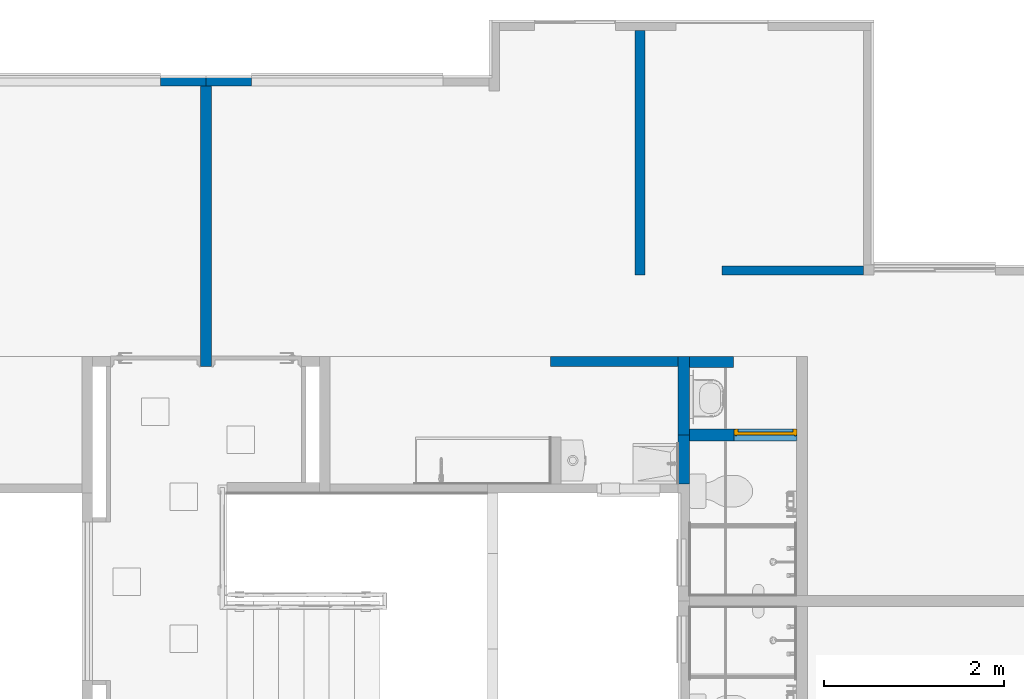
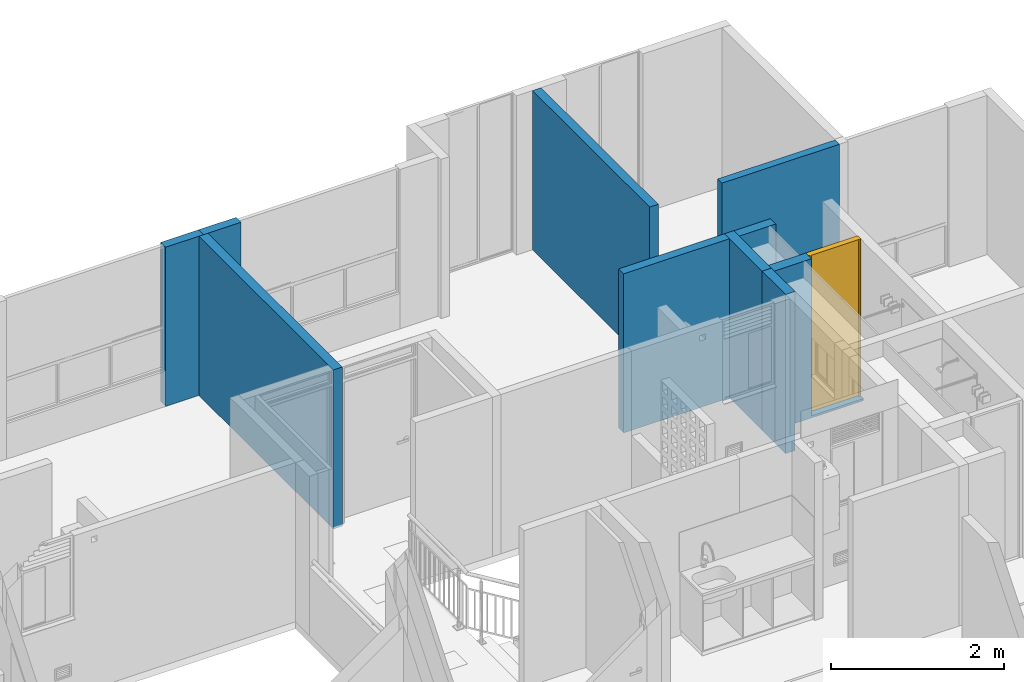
# One storey, part 22 of 47: 10 walls, 1 door, 1 opening.
"""IFC4 building model written with IfcOpenShell, lengths in metres."""

from ifc_helpers import new_model, entity, si_unit, converted_unit, derived_unit, direction, frame, origin, place, context, subcontext, project, spatial, indexed_curve, outline, extrude, polygons, source, transform, mapped, material, constituent, constituent_set, type_object, type_shapes, element, fill, save


model = new_model("IFC4")

# Units and contexts
model_context = context("Model", 3, precision=1e-05, world=origin(), true_north=direction((6.123031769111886e-17, 1.0)))
body_context = subcontext(model_context, "Body", "Model", "MODEL_VIEW")
ifc_project = project(units=[si_unit("LENGTHUNIT", "METRE"), si_unit("AREAUNIT", "SQUARE_METRE"), si_unit("VOLUMEUNIT", "CUBIC_METRE"), converted_unit("PLANEANGLEUNIT", "DEGREE", entity("IfcRatioMeasure", 0.017453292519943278), si_unit("PLANEANGLEUNIT", "RADIAN"), dimensions=[0, 0, 0, 0, 0, 0, 0]), si_unit("MASSUNIT", "GRAM", prefix="KILO"), derived_unit("MASSDENSITYUNIT", [(si_unit("MASSUNIT", "GRAM", prefix="KILO"), 1), (si_unit("LENGTHUNIT", "METRE"), -3)]), derived_unit("IONCONCENTRATIONUNIT", [(si_unit("MASSUNIT", "GRAM", prefix="KILO"), 1), (si_unit("LENGTHUNIT", "METRE"), -3)]), derived_unit("MOMENTOFINERTIAUNIT", [(si_unit("LENGTHUNIT", "METRE"), 4)]), si_unit("TIMEUNIT", "SECOND"), si_unit("FREQUENCYUNIT", "HERTZ"), si_unit("THERMODYNAMICTEMPERATUREUNIT", "DEGREE_CELSIUS"), derived_unit("THERMALTRANSMITTANCEUNIT", [(si_unit("MASSUNIT", "GRAM", prefix="KILO"), 1), (si_unit("THERMODYNAMICTEMPERATUREUNIT", "KELVIN"), -1), (si_unit("TIMEUNIT", "SECOND"), -3)]), derived_unit("THERMALCONDUCTANCEUNIT", [(si_unit("MASSUNIT", "GRAM", prefix="KILO"), 1), (si_unit("THERMODYNAMICTEMPERATUREUNIT", "KELVIN"), -1), (si_unit("TIMEUNIT", "SECOND"), -3), (si_unit("LENGTHUNIT", "METRE"), 1)]), derived_unit("VOLUMETRICFLOWRATEUNIT", [(si_unit("LENGTHUNIT", "METRE"), 3), (si_unit("TIMEUNIT", "SECOND"), -1)]), derived_unit("MASSFLOWRATEUNIT", [(si_unit("MASSUNIT", "GRAM", prefix="KILO"), 1), (si_unit("TIMEUNIT", "SECOND"), -1)]), derived_unit("ROTATIONALFREQUENCYUNIT", [(si_unit("TIMEUNIT", "SECOND"), -1)]), si_unit("ELECTRICCURRENTUNIT", "AMPERE"), si_unit("ELECTRICVOLTAGEUNIT", "VOLT"), si_unit("POWERUNIT", "WATT"), si_unit("FORCEUNIT", "NEWTON", prefix="KILO"), si_unit("ILLUMINANCEUNIT", "LUX"), si_unit("LUMINOUSFLUXUNIT", "LUMEN"), si_unit("LUMINOUSINTENSITYUNIT", "CANDELA"), derived_unit("USERDEFINED", [(si_unit("MASSUNIT", "GRAM", prefix="KILO"), -1), (si_unit("LENGTHUNIT", "METRE"), -2), (si_unit("TIMEUNIT", "SECOND"), 3), (si_unit("LUMINOUSFLUXUNIT", "LUMEN"), 1)]), derived_unit("USERDEFINED", [(si_unit("MASSUNIT", "GRAM", prefix="KILO"), 1), (si_unit("TIMEUNIT", "SECOND"), -3), (si_unit("LENGTHUNIT", "METRE"), 3), (si_unit("ELECTRICCURRENTUNIT", "AMPERE"), -2)]), derived_unit("SOUNDPOWERUNIT", [(si_unit("MASSUNIT", "GRAM", prefix="KILO"), 1), (si_unit("TIMEUNIT", "SECOND"), -3), (si_unit("LENGTHUNIT", "METRE"), 2)]), derived_unit("SOUNDPRESSUREUNIT", [(si_unit("MASSUNIT", "GRAM", prefix="KILO"), 1), (si_unit("LENGTHUNIT", "METRE"), -1), (si_unit("TIMEUNIT", "SECOND"), -2)]), derived_unit("LINEARVELOCITYUNIT", [(si_unit("LENGTHUNIT", "METRE"), 1), (si_unit("TIMEUNIT", "SECOND"), -1)]), si_unit("PRESSUREUNIT", "PASCAL"), derived_unit("USERDEFINED", [(si_unit("MASSUNIT", "GRAM", prefix="KILO"), 1), (si_unit("LENGTHUNIT", "METRE"), -2), (si_unit("TIMEUNIT", "SECOND"), -2)]), derived_unit("LINEARFORCEUNIT", [(si_unit("MASSUNIT", "GRAM", prefix="KILO"), 1), (si_unit("TIMEUNIT", "SECOND"), -2)]), derived_unit("PLANARFORCEUNIT", [(si_unit("MASSUNIT", "GRAM", prefix="KILO"), 1), (si_unit("LENGTHUNIT", "METRE"), -1), (si_unit("TIMEUNIT", "SECOND"), -2)]), derived_unit("SPECIFICHEATCAPACITYUNIT", [(si_unit("THERMODYNAMICTEMPERATUREUNIT", "KELVIN"), -1), (si_unit("LENGTHUNIT", "METRE"), 2), (si_unit("TIMEUNIT", "SECOND"), -2)]), derived_unit("HEATINGVALUEUNIT", [(si_unit("LENGTHUNIT", "METRE"), 2), (si_unit("TIMEUNIT", "SECOND"), -2)]), derived_unit("VAPORPERMEABILITYUNIT", [(si_unit("LENGTHUNIT", "METRE"), -1), (si_unit("TIMEUNIT", "SECOND"), 1)]), derived_unit("DYNAMICVISCOSITYUNIT", [(si_unit("MASSUNIT", "GRAM", prefix="KILO"), 1), (si_unit("TIMEUNIT", "SECOND"), -1), (si_unit("LENGTHUNIT", "METRE"), -1)]), derived_unit("THERMALEXPANSIONCOEFFICIENTUNIT", [(si_unit("THERMODYNAMICTEMPERATUREUNIT", "KELVIN"), -1)]), derived_unit("MODULUSOFELASTICITYUNIT", [(si_unit("MASSUNIT", "GRAM", prefix="KILO"), 1), (si_unit("LENGTHUNIT", "METRE"), -1), (si_unit("TIMEUNIT", "SECOND"), -2)]), derived_unit("ISOTHERMALMOISTURECAPACITYUNIT", [(si_unit("LENGTHUNIT", "METRE"), 3), (si_unit("MASSUNIT", "GRAM", prefix="KILO"), -1)]), derived_unit("MOISTUREDIFFUSIVITYUNIT", [(si_unit("TIMEUNIT", "SECOND"), -1), (si_unit("LENGTHUNIT", "METRE"), 2)])], contexts=[model_context])

# Site, building, storey
site_placement = place(None, origin())
site = spatial("IfcSite", under=ifc_project, at=site_placement, Name="Default", CompositionType="ELEMENT")
building_placement = place(site_placement, origin())
building = spatial("IfcBuilding", under=site, at=building_placement, CompositionType="ELEMENT")
storey_placement = place(building_placement, frame((0.0, 0.0, 11.750000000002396)))
storey = spatial("IfcBuildingStorey", under=building, at=storey_placement, Name="Nivel 6", CompositionType="ELEMENT", Elevation=11.750000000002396)

# Walls
ifc_material_1 = material(Name="Concreto (Aire)", Category="Materials")
wall_type_1 = type_object("IfcWallType", Name="Basic Wall:B2010 - 0.12m - Muro interior en concreto", PredefinedType="STANDARD")
wall_1_placement = place(storey_placement, frame((9.32250000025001, -3.8249999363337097, 0.0), z_axis=(0.0, 0.0, 1.0), x_axis=(0.0, 1.0, 0.0)))
element("IfcWall", 1, at=wall_1_placement, inside=storey, type_object=wall_type_1, material=ifc_material_1, Name="Basic Wall:B2010 - 0.12m - Muro interior en concreto", ObjectType="Basic Wall:B2010 - 0.12m - Muro interior en concreto", PredefinedType="NOTDEFINED", context=body_context, shape_type="SweptSolid", body=[
    extrude(outline(indexed_curve([(3.1149999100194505, 0.06000000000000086), (8.03641024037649e-16, 0.060000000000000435), (2.792261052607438e-16, -0.060000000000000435), (3.1149999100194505, -0.06000000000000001), (3.1149999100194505, 0.06000000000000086)], self_intersect=False)), origin(), (0.0, 0.0, 1.0), 2.250000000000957),
])
ifc_material_2 = material(Name="LADRILLO CLARO", Category="Materials")
wall_type_2 = type_object("IfcWallType", Name="Basic Wall:B2010 - 0.115m - ME mampostería no estructural - Ladrillo", PredefinedType="STANDARD")
wall_2_placement = place(storey_placement, frame((8.817499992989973, -0.6525000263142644, 0.0)))
element("IfcWall", 2, at=wall_2_placement, inside=storey, type_object=wall_type_2, material=ifc_material_2, Name="Basic Wall:B2010 - 0.115m - ME mampostería no estructural - Ladrillo", ObjectType="Basic Wall:B2010 - 0.115m - ME mampostería no estructural - Ladrillo", PredefinedType="NOTDEFINED", context=body_context, shape_type="SweptSolid", body=[
    extrude(outline(indexed_curve([(0.505000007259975, 0.057500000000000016), (-1.5987656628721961e-15, 0.05749999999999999), (-5.6696859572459e-16, -0.05750000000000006), (0.505000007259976, -0.05750000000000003), (0.505000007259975, 0.057500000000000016)], self_intersect=False)), origin(), (0.0, 0.0, 1.0), 2.2500000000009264),
])
wall_3_placement = place(storey_placement, frame((9.827500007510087, -0.6525000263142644, 0.0), z_axis=(0.0, 0.0, 1.0), x_axis=(-1.0, 0.0, 0.0)))
element("IfcWall", 3, at=wall_3_placement, inside=storey, type_object=wall_type_2, material=ifc_material_2, Name="Basic Wall:B2010 - 0.115m - ME mampostería no estructural - Ladrillo", ObjectType="Basic Wall:B2010 - 0.115m - ME mampostería no estructural - Ladrillo", PredefinedType="NOTDEFINED", context=body_context, shape_type="SweptSolid", body=[
    extrude(outline(indexed_curve([(0.5050000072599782, 0.05750000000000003), (-5.6696859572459e-16, 0.05750000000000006), (5.669685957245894e-16, -0.05749999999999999), (0.5050000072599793, -0.057500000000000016), (0.5050000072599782, 0.05750000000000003)], self_intersect=False)), origin(), (0.0, 0.0, 1.0), 2.2500000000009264),
])
ifc_material_3 = material(Name="Ladrillo claro (Aire)", Category="Materials")
wall_type_3 = type_object("IfcWallType", Name="Basic Wall:B2010 - 0.115m - Muro interior en mampostería - Ladrillo", PredefinedType="STANDARD")
wall_4_placement = place(storey_placement, frame((14.135000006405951, -0.09500002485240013, 0.0), z_axis=(0.0, 0.0, 1.0), x_axis=(0.0, -1.0, 0.0)))
element("IfcWall", 4, at=wall_4_placement, inside=storey, type_object=wall_type_3, material=ifc_material_3, Name="Basic Wall:B2010 - 0.115m - Muro interior en mampostería - Ladrillo", ObjectType="Basic Wall:B2010 - 0.115m - Muro interior en mampostería - Ladrillo", PredefinedType="NOTDEFINED", context=body_context, shape_type="SweptSolid", body=[
    extrude(outline(indexed_curve([(2.7150000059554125, 0.05749999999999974), (-3.2594452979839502e-18, 0.057499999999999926), (3.2594452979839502e-18, -0.057499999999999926), (2.7150000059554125, -0.05750000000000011), (2.7150000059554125, 0.05749999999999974)], self_intersect=False)), origin(), (0.0, 0.0, 1.0), 2.2499999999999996),
])
wall_5_placement = place(storey_placement, frame((14.557500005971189, -3.7675000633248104, 0.0), z_axis=(0.0, 0.0, 1.0), x_axis=(-1.0, 0.0, 0.0)))
element("IfcWall", 5, at=wall_5_placement, inside=storey, type_object=wall_type_3, material=ifc_material_3, Name="Basic Wall:B2010 - 0.115m - Muro interior en mampostería - Ladrillo", ObjectType="Basic Wall:B2010 - 0.115m - Muro interior en mampostería - Ladrillo", PredefinedType="NOTDEFINED", context=body_context, shape_type="SweptSolid", body=[
    extrude(outline(indexed_curve([(1.414999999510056, 0.057499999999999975), (1.9595423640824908e-16, 0.057499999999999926), (-1.9595423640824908e-16, -0.057499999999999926), (1.4149999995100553, -0.05749999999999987), (1.414999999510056, 0.057499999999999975)], self_intersect=False)), origin(), (0.0, 0.0, 1.0), 2.2499999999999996),
])
wall_type_4 = type_object("IfcWallType", Name="Basic Wall:B2010 - 0.10m - Muro interior en concreto", PredefinedType="STANDARD")
wall_6_placement = place(storey_placement, frame((16.612500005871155, -2.7600000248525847, 0.0), z_axis=(0.0, 0.0, 1.0), x_axis=(-1.0, 0.0, 0.0)))
element("IfcWall", 6, at=wall_6_placement, inside=storey, type_object=wall_type_4, material=ifc_material_1, Name="Basic Wall:B2010 - 0.10m - Muro interior en concreto", ObjectType="Basic Wall:B2010 - 0.10m - Muro interior en concreto", PredefinedType="NOTDEFINED", context=body_context, shape_type="SweptSolid", body=[
    extrude(outline(indexed_curve([(1.569999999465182, 0.050000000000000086), (-1.0889063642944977e-15, 0.05), (-3.2425621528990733e-15, -0.05), (1.5699999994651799, -0.04999999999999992), (1.569999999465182, 0.050000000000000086)], self_intersect=False)), origin(), (0.0, 0.0, 1.0), 2.2499999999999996),
])
ifc_material_4 = material(Name="Pañete", Category="Materials")
ifc_constituent_1 = constituent(ifc_material_4, Name="Pañete", Category="Materials")
ifc_constituent_2 = constituent(ifc_material_3, Name="Ladrillo claro (Aire)", Category="Materials")
ifc_constituent_set_1 = constituent_set(constituents=[ifc_constituent_1, ifc_constituent_2], Name="Basic Wall:B2010 - 0.115m - Muro interior en mampostería - Ladrillo + Pañete")
wall_type_5 = type_object("IfcWallType", Name="Basic Wall:B2010 - 0.115m - Muro interior en mampostería - Ladrillo + Pañete", PredefinedType="STANDARD", material=ifc_constituent_set_1)
wall_7_placement = place(storey_placement, frame((15.172500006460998, -3.7725000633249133, 0.0), z_axis=(0.0, 0.0, 1.0), x_axis=(-1.0, 0.0, 0.0)))
element("IfcWall", 7, at=wall_7_placement, inside=storey, type_object=wall_type_5, material=ifc_constituent_set_1, Name="Basic Wall:B2010 - 0.115m - Muro interior en mampostería - Ladrillo + Pañete", ObjectType="Basic Wall:B2010 - 0.115m - Muro interior en mampostería - Ladrillo + Pañete", PredefinedType="NOTDEFINED", context=body_context, shape_type="SweptSolid", body=[
    extrude(outline(indexed_curve([(-0.004999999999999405, -0.24500000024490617), (0.0050000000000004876, -0.24500000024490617), (0.004999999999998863, 0.245000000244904), (-0.005000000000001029, 0.245000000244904), (-0.004999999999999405, -0.24500000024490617)], self_intersect=False)), frame((0.24500000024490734, 0.057499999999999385, 0.0), z_axis=(0.0, 0.0, 1.0), x_axis=(0.0, -1.0, 0.0)), (0.0, 0.0, 1.0), 2.2500000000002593),
    extrude(outline(indexed_curve([(-0.057499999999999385, -0.245000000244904), (0.05750000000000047, -0.245000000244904), (0.057499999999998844, 0.24500000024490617), (-0.05750000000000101, 0.24500000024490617), (-0.057499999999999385, -0.245000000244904)], self_intersect=False)), frame((0.24500000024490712, -0.004999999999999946, 0.0), z_axis=(0.0, 0.0, 1.0), x_axis=(0.0, 1.0, 0.0)), (0.0, 0.0, 1.0), 2.2500000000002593),
])

# Wall, opening, door
ifc_constituent_3 = constituent(ifc_material_4, Name="Pañete", Category="Materials")
ifc_constituent_4 = constituent(ifc_material_2, Name="LADRILLO CLARO", Category="Materials")
ifc_constituent_5 = constituent(ifc_material_4, Name="Pañete (2)", Category="Materials")
ifc_constituent_set_2 = constituent_set(constituents=[ifc_constituent_3, ifc_constituent_4, ifc_constituent_5], Name="Basic Wall:B2010 - 0.115m - MI  mampostería no estructural - Pañete + Ladrillo + Pañete")
wall_type_6 = type_object("IfcWallType", Name="Basic Wall:B2010 - 0.115m - MI  mampostería no estructural - Pañete + Ladrillo + Pañete", PredefinedType="STANDARD", material=ifc_constituent_set_2)
wall_8_placement = place(storey_placement, frame((14.682500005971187, -4.582500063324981, 0.0)))
wall_8 = element("IfcWall", 8, at=wall_8_placement, inside=storey, type_object=wall_type_6, material=ifc_constituent_set_2, Name="Basic Wall:B2010 - 0.115m - MI  mampostería no estructural - Pañete + Ladrillo + Pañete", ObjectType="Basic Wall:B2010 - 0.115m - MI  mampostería no estructural - Pañete + Ladrillo + Pañete", PredefinedType="NOTDEFINED", context=body_context, shape_type="SweptSolid", body=[
    extrude(outline(indexed_curve([(-1.1325000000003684, -0.5199994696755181), (1.117500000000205, -0.5199994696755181), (1.117500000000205, -0.12999946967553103), (1.117500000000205, -0.10999946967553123), (1.117500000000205, -0.0250005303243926), (-1.1025000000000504, -0.0250005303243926), (-1.1025000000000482, 0.6649994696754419), (-1.1325000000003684, 0.6649994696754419), (-1.1325000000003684, -0.5199994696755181)], self_intersect=False)), frame((0.5199994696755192, -0.06750000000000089, 1.1325000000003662), z_axis=(0.0, 1.0, 0.0), x_axis=(0.0, 0.0, 1.0)), (0.0, 0.0, 1.0), 0.010000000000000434),
    extrude(outline(indexed_curve([(-0.7600000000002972, -0.5599992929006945), (1.4900000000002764, -0.5599992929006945), (1.4900000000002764, -0.06500035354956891), (-0.7299999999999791, -0.06500035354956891), (-0.729999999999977, 0.6249996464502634), (-0.760000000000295, 0.6249996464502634), (-0.7600000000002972, -0.5599992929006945)], self_intersect=False)), frame((0.5599992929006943, 0.057499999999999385, 0.760000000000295), z_axis=(0.0, 1.0, 0.0), x_axis=(0.0, 0.0, 1.0)), (0.0, 0.0, 1.0), 0.009999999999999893),
    extrude(outline(indexed_curve([(-0.7600000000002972, -0.5633326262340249), (1.4900000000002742, -0.563332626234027), (1.4900000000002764, -0.06833368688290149), (-0.7299999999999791, -0.06833368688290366), (-0.729999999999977, 0.6316663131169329), (-0.760000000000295, 0.6316663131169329), (-0.7600000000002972, -0.5633326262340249)], self_intersect=False)), frame((0.563332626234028, -0.05750000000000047, 0.760000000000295), z_axis=(0.0, 1.0, 0.0), x_axis=(0.0, 0.0, 1.0)), (0.0, 0.0, 1.0), 0.11499999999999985),
])
opening_placement = place(wall_8_placement, frame((1.1949989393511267, 0.06749999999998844, 0.0299999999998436)))
opening = element("IfcOpeningElement", 9, at=opening_placement, cuts=wall_8, Name="C1030 - Puerta batiente - Madera+Aluminio:C1030 - 0.70 x 2.22 - Puerta batiente - Madera+ Metal:1", PredefinedType="OPENING", context=body_context, shape_type="SweptSolid", body=[
    extrude(outline(indexed_curve([(1.438182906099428e-16, 0.7000000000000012), (1.438182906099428e-16, 0.0), (2.219999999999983, 0.0), (2.2199999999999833, 0.7000000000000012), (1.438182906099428e-16, 0.7000000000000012)], self_intersect=False)), frame((0.0, 0.0, 0.0), z_axis=(0.0, -1.0, 0.0), x_axis=(0.0, 0.0, 1.0)), (0.0, 0.0, 1.0), 0.13499999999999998),
])
ifc_material_5 = material(Name="<Unnamed>")
door_type = type_object("IfcDoorType", Name="C1030 - Puerta batiente - Madera+Aluminio:C1030 - 0.70 x 2.22 - Puerta batiente - Madera+ Metal", OperationType="SINGLE_SWING_LEFT", PredefinedType="DOOR", material=ifc_material_5)
shared_shape = source(origin(), body_context, "Body", "Tessellation", [
    polygons([(0.6699999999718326, 0.06499999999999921, 0.009880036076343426), (0.6699999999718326, 0.0324999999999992, 0.009880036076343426), (0.030000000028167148, 0.0324999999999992, 0.009880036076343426), (0.030000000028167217, 0.06499999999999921, 0.009880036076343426), (0.6699999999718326, 0.06499999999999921, 2.2050000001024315), (0.6699999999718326, 0.0324999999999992, 2.2050000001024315), (0.030000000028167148, 0.0324999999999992, 2.2050000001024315), (0.030000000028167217, 0.06499999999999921, 2.2050000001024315)], [[[1, 2, 3, 4]], [[5, 6, 2, 1]], [[6, 7, 3, 2]], [[7, 8, 4, 3]], [[8, 5, 1, 4]], [[5, 8, 7, 6]]], closed=True),
    polygons([(0.6849999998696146, 0.0649999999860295, 0.0), (0.7, 0.0649999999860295, 0.0), (0.7, 0.0074999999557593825, 0.0), (0.6849999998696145, 0.007499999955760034, 0.0), (0.6849999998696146, -5.075939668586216e-17, 0.0), (0.6549999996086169, -1.6919798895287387e-17, 0.0), (0.6549999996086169, 0.04000000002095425, 0.0), (0.6699999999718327, 0.04000000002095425, 0.0), (0.6699999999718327, 0.07999999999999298, 0.0), (0.6849999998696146, 0.07999999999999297, 0.0), (0.7, 0.0074999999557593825, 2.2199999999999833), (0.6849999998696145, 0.007499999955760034, 2.2199999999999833), (0.6849999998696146, 0.0649999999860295, 2.2199999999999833), (0.7, 0.0649999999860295, 2.2199999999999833), (0.015000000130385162, 0.06499999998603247, 0.0), (0.015000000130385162, 0.07999999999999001, 0.0), (0.030000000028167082, 0.07999999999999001, 0.0), (0.030000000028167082, 0.04000000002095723, 0.0), (0.04500000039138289, 0.04000000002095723, 0.0), (0.04500000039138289, 0.0, 0.0), (0.01500000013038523, 0.0, 0.0), (0.015000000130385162, 0.007499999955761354, 0.0), (0.0, 0.007499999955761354, 0.0), (0.0, 0.06499999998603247, 0.0), (0.0, 0.06499999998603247, 2.2199999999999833), (0.015000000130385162, 0.06499999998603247, 2.2199999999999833), (0.015000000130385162, 0.007499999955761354, 2.2199999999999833), (0.0, 0.007499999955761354, 2.2199999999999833), (0.04500000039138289, 0.04000000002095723, 2.2050000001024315), (0.04500000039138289, 0.03250000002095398, 2.2050000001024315), (0.04500000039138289, 0.03250000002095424, 2.189999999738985), (0.04500000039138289, 0.0, 2.189999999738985), (0.6549999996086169, -1.6919798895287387e-17, 2.189999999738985), (0.6549999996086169, 0.032500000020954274, 2.189999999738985), (0.6549999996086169, 0.03250000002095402, 2.2050000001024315), (0.6549999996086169, 0.04000000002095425, 2.2050000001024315), (0.030000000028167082, 0.07999999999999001, 2.2199999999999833), (0.030000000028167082, 0.07249999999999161, 2.2199999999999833), (0.030000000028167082, 0.07249999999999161, 2.2050000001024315), (0.030000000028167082, 0.04000000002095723, 2.2050000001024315), (0.6699999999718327, 0.04000000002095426, 2.2050000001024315), (0.6699999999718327, 0.07249999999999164, 2.2050000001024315), (0.6699999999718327, 0.07249999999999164, 2.2199999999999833), (0.6699999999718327, 0.07999999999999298, 2.2199999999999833), (0.015000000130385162, 0.07999999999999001, 2.2199999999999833), (0.6849999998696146, -5.075939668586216e-17, 2.2199999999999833), (0.01500000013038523, 0.0, 2.2199999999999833), (0.6849999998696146, 0.07999999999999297, 2.2199999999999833)], [[[1, 2, 3, 4, 5, 6, 7, 8, 9, 10]], [[11, 12, 4, 3]], [[13, 14, 2, 1]], [[15, 16, 17, 18, 19, 20, 21, 22, 23, 24]], [[25, 26, 15, 24]], [[27, 28, 23, 22]], [[20, 19, 29, 30, 31, 32]], [[7, 6, 33, 34, 35, 36]], [[18, 17, 37, 38, 39, 40]], [[9, 8, 41, 42, 43, 44]], [[28, 25, 24, 23]], [[14, 11, 3, 2]], [[26, 45, 16, 15]], [[45, 37, 17, 16]], [[19, 18, 40, 29]], [[21, 20, 32, 33, 6, 5, 46, 47]], [[47, 27, 22, 21]], [[12, 46, 5, 4]], [[48, 13, 1, 10]], [[26, 25, 28, 27, 47, 46, 12, 11, 14, 13, 48, 44, 43, 38, 37, 45]], [[39, 42, 41, 36, 35, 30, 29, 40]], [[33, 32, 31, 34]], [[8, 7, 36, 41]], [[44, 48, 10, 9]], [[34, 31, 30, 35]], [[42, 39, 38, 43]]], closed=True),
])
type_shapes(door_type, [shared_shape])
door_placement = place(opening_placement, frame((0.0, 0.0, 0.0), z_axis=(0.0, 0.0, 1.0), x_axis=(-1.0, 0.0, 0.0)))
door = element("IfcDoor", 10, at=door_placement, inside=storey, type_object=door_type, material=ifc_material_5, Name="C1030 - Puerta batiente - Madera+Aluminio:C1030 - 0.70 x 2.22 - Puerta batiente - Madera+ Metal", ObjectType="C1030 - Puerta batiente - Madera+Aluminio:C1030 - 0.70 x 2.22 - Puerta batiente - Madera+ Metal", OperationType="NOTDEFINED", OverallHeight=2.2199999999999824, OverallWidth=0.7000000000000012, PredefinedType="DOOR", context=body_context, shape_type="MappedRepresentation", body=[
    mapped(shared_shape, transform((0.0, 0.0, 0.0), scale=1.0)),
])
fill(opening, door)

# Walls
ifc_material_6 = material(Name="Pañete, estuco y pintura", Category="Materials")
ifc_constituent_6 = constituent(ifc_material_6, Name="Pañete, estuco y pintura", Category="Materials")
ifc_constituent_7 = constituent(ifc_material_3, Name="Ladrillo claro (Aire)", Category="Materials")
ifc_constituent_set_3 = constituent_set(constituents=[ifc_constituent_6, ifc_constituent_7], Name="Basic Wall:B2010 - 0.115m - Muro interior en mampostería - Ladrillo + Pañete+ estuco+ pintura")
wall_type_7 = type_object("IfcWallType", Name="Basic Wall:B2010 - 0.115m - Muro interior en mampostería - Ladrillo + Pañete+ estuco+ pintura", PredefinedType="STANDARD", material=ifc_constituent_set_3)
wall_9_placement = place(storey_placement, frame((14.620000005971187, -3.7100000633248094, 0.0), z_axis=(0.0, 0.0, 1.0), x_axis=(0.0, -1.0, 0.0)))
element("IfcWall", 11, at=wall_9_placement, inside=storey, type_object=wall_type_7, material=ifc_constituent_set_3, Name="Basic Wall:B2010 - 0.115m - Muro interior en mampostería - Ladrillo + Pañete+ estuco+ pintura", ObjectType="Basic Wall:B2010 - 0.115m - Muro interior en mampostería - Ladrillo + Pañete+ estuco+ pintura", PredefinedType="NOTDEFINED", context=body_context, shape_type="SweptSolid", body=[
    extrude(outline(indexed_curve([(-0.35916666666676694, -0.0033333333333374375), (0.3208333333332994, -0.0033333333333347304), (0.44583333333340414, -0.003333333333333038), (0.4458333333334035, 0.0066666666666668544), (-0.42666666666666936, 0.006666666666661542), (-0.4266666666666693, -0.0033333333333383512), (-0.35916666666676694, -0.0033333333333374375)], self_intersect=False)), frame((0.4458333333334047, 0.05916666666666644, 0.0), z_axis=(0.0, 0.0, 1.0), x_axis=(-1.0, 0.0, 0.0)), (0.0, 0.0, 1.0), 2.2499999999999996),
    extrude(outline(indexed_curve([(-0.2570000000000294, -0.046000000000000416), (0.5005000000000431, -0.046000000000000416), (0.5005000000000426, 0.06899999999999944), (-0.3720000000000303, 0.06899999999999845), (-0.37200000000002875, -0.046000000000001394), (-0.2570000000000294, -0.046000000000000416)], self_intersect=False)), frame((0.37200000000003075, -0.016499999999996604, 0.0)), (0.0, 0.0, 1.0), 2.2499999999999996),
])
wall_10_placement = place(storey_placement, frame((14.620000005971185, -4.582500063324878, 0.0), z_axis=(0.0, 0.0, 1.0), x_axis=(0.0, -1.0, 0.0)))
element("IfcWall", 12, at=wall_10_placement, inside=storey, type_object=wall_type_7, material=ifc_constituent_set_3, Name="Basic Wall:B2010 - 0.115m - Muro interior en mampostería - Ladrillo + Pañete+ estuco+ pintura", ObjectType="Basic Wall:B2010 - 0.115m - Muro interior en mampostería - Ladrillo + Pañete+ estuco+ pintura", PredefinedType="NOTDEFINED", context=body_context, shape_type="SweptSolid", body=[
    extrude(outline(indexed_curve([(0.162805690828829, -0.004000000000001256), (0.23030569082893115, -0.004000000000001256), (0.23030569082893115, 0.005999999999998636), (-0.3117085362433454, 0.006000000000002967), (-0.3117085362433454, -0.003999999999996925), (0.162805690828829, -0.004000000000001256)], self_intersect=False)), frame((0.23030569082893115, 0.05850000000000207, 0.0), z_axis=(0.0, 0.0, 1.0), x_axis=(-1.0, 0.0, 0.0)), (0.0, 0.0, 1.0), 2.2499999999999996),
    extrude(outline(indexed_curve([(-0.12467143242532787, -0.0383333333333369), (-0.09067143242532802, -0.0383333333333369), (0.3248428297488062, -0.03833333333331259), (0.32484282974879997, 0.07666666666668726), (-0.21717139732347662, 0.07666666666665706), (-0.21717139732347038, -0.03833333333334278), (-0.12467143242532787, -0.0383333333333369)], self_intersect=False)), frame((0.2171713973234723, -0.024166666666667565, 0.0)), (0.0, 0.0, 1.0), 2.2499999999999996),
])

save(model, "model.ifc")
